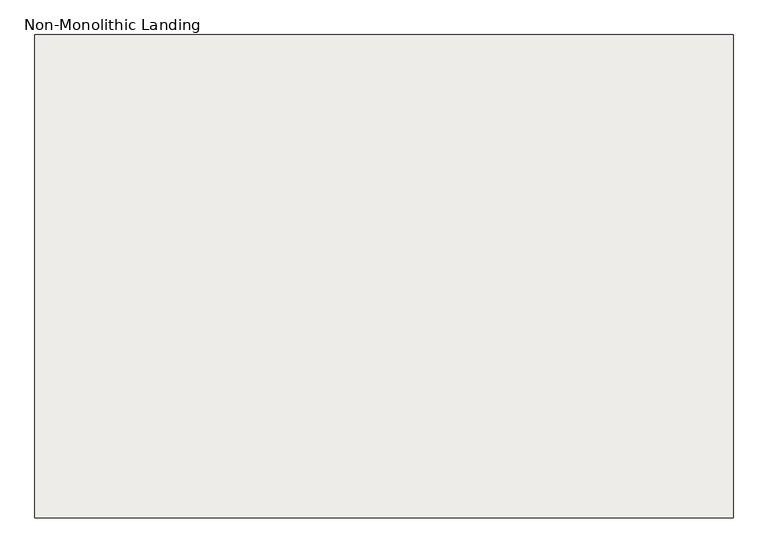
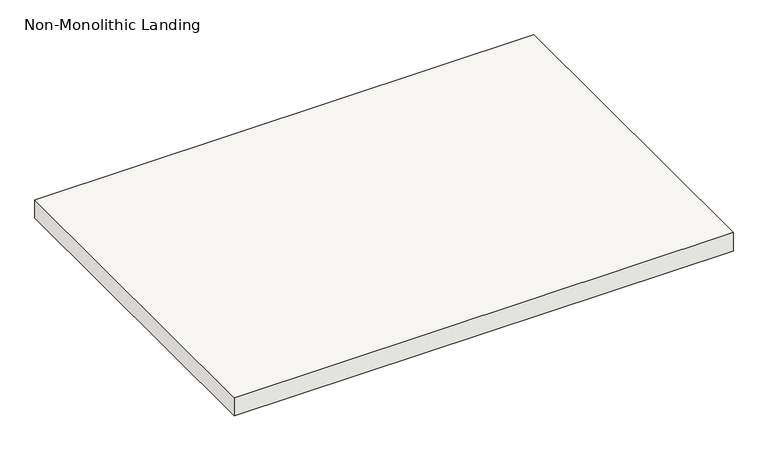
"""IFC4 building model written with IfcOpenShell, lengths in millimetres: slab geometry, Non-Monolithic Landing."""

from ifc_helpers import new_model, si_unit, frame, origin, place, context, project, spatial, polyline, outline, extrude, source, transform, mapped, element, save


def non_monolithic_landing_e2370479(model_context):
    return source(origin(), model_context, "Body", "SweptSolid", [
        extrude(outline(polyline([(87853.8048368, 16760.4395941), (89174.6048368, 16760.4395941), (89174.6048368, 15846.0395941), (87853.8048368, 15846.0395941), (87853.8048368, 16760.4395941)])), frame((0.0, 0.0, 2126.3428571), z_axis=(0.0, 0.0, 1.0), x_axis=(1.0, 0.0, 0.0)), (0.0, 0.0, 1.0), 50.8),
    ])


if __name__ == "__main__":
    model = new_model("IFC4")
    model_context = context("Model", 3, world=origin())
    ifc_project = project(units=[si_unit("LENGTHUNIT", "METRE", prefix="MILLI")], contexts=[model_context])
    site = spatial("IfcSite", under=ifc_project)
    building = spatial("IfcBuilding", under=site)
    placement = place(None, origin())
    non_monolithic_landing_shape = non_monolithic_landing_e2370479(model_context)
    element("IfcSlab", 1, ObjectType="Non-Monolithic Landing", at=placement, inside=building, context=model_context, shape_type="MappedRepresentation", body=[
        mapped(non_monolithic_landing_shape, transform((0.0, 0.0, 0.0), x_axis=(1.0, 0.0, 0.0), y_axis=(0.0, 1.0, 0.0), z_axis=(0.0, 0.0, 1.0))),
    ])
    save(model, "model.ifc")
